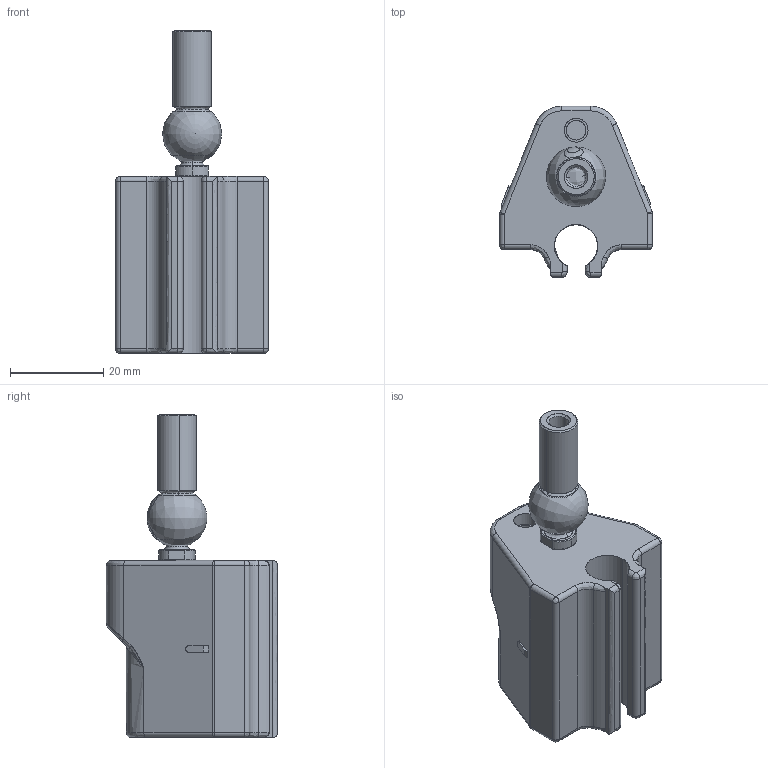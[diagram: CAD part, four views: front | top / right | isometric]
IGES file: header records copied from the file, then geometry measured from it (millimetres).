
Start section: SolidWorks IGES file using analytic representation for surfaces
Global section: file name: \\srv4gefran\dir-cat\Disegni Catalogo\Posizione\WPG\WPG-A-0100\3D\Solidworks 2019\ACCESSORI\PCUR220x.IGS; native system: SolidWorks 2019; preprocessor: SolidWorks 2019; author: Loda-w1; date: 181217.142347; units: millimetre
Bounding box: 32.8 x 36.75 x 69.33 mm (x, y, z)
Surface area: 10021.9 mm2 (no closed solid volume)
Topology: 0 solids, 0 shells, 192 faces, 2045 edges, 2034 vertices
Faces by surface type: bspline 100, revolution 92
